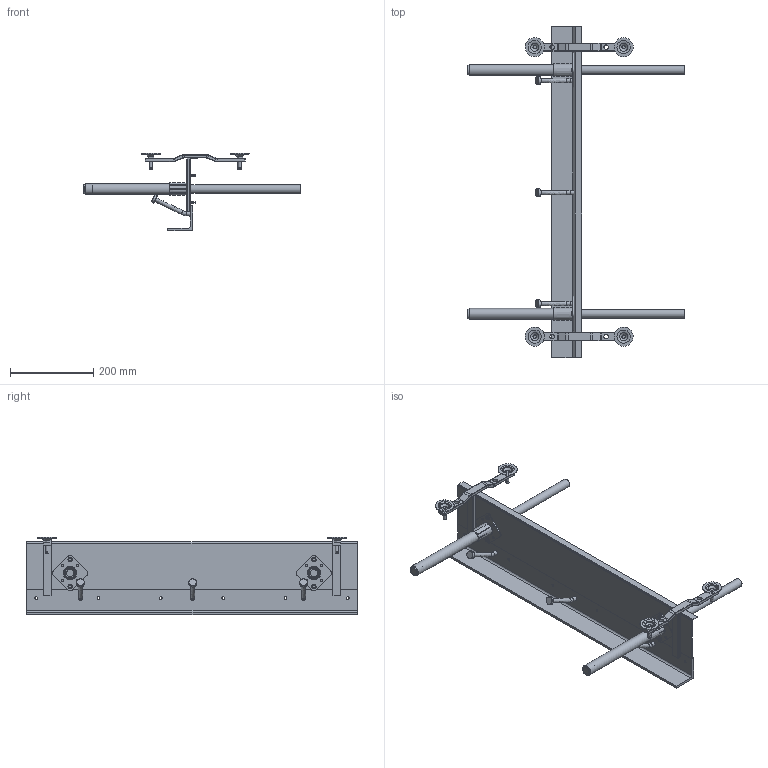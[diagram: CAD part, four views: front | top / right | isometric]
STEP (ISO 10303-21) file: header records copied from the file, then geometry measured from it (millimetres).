
FILE_DESCRIPTION(/* description */ (''),/* implementation_level */ '2;1');
FILE_NAME(/* name */ 'C:\Users\MW\Desktop\Guggenmoos\TAP rot\TAP rot\TAP rot.stp',/* time_stamp */ '2019-09-10T20:12:31+02:00',/* author */ ('MW'),/* organization */ (''),/* preprocessor_version */ 'ST-DEVELOPER v16.5',/* originating_system */ 'Autodesk Inventor 2017',/* authorisation */ '');
FILE_SCHEMA (('AUTOMOTIVE_DESIGN { 1 0 10303 214 3 1 1 }'));
Length unit declared in the file: millimetre
Products named in the file (11): Herkules ER; Unterbau Herkules ER; Blech Herkules ER; Winkel Herkules ER; Flansch Herkules ER; Stellfuß Herkules ER; Rohr Herkules ER; Stopfen Herkules ER; 334014_8x16cr3; Stange Herkules ER; Verankerung Herkules ER
Assembly tree (23 placements, depth 2):
  Herkules ER
    Unterbau Herkules ER  x2
    Blech Herkules ER
    Winkel Herkules ER
    Verankerung Herkules ER  x3
    Flansch Herkules ER  x2
    Rohr Herkules ER  x2
    Stopfen Herkules ER  x2
    Stange Herkules ER  x2
    Stellfuß Herkules ER  x4
    334014_8x16cr3  x4
Bounding box: 521.7 x 797 x 186.22 mm (x, y, z)
Volume: 1323049.8 mm3; surface area: 657676 mm2
Topology: 23 solids, 23 shells, 708 faces, 1578 edges, 937 vertices
Faces by surface type: plane 311, cylinder 232, torus 66, cone 58, sphere 32, bspline 9
Full cylindrical faces by diameter (mm): 3 x4, 4.5 x4, 4.8 x4, 5.5 x8, 6.5 x6, 6.8 x4, 8 x4, 10.5 x4, 11 x4, 17.3 x2, 19 x3, 20.5 x2, 21.6 x2, 22 x4, 26 x2, 46 x4
Entity records: 8778 total; most frequent: CARTESIAN_POINT 1719, DIRECTION 1525, ORIENTED_EDGE 1244, EDGE_CURVE 622, AXIS2_PLACEMENT_3D 604, EDGE_LOOP 413, VERTEX_POINT 399, LINE 317
